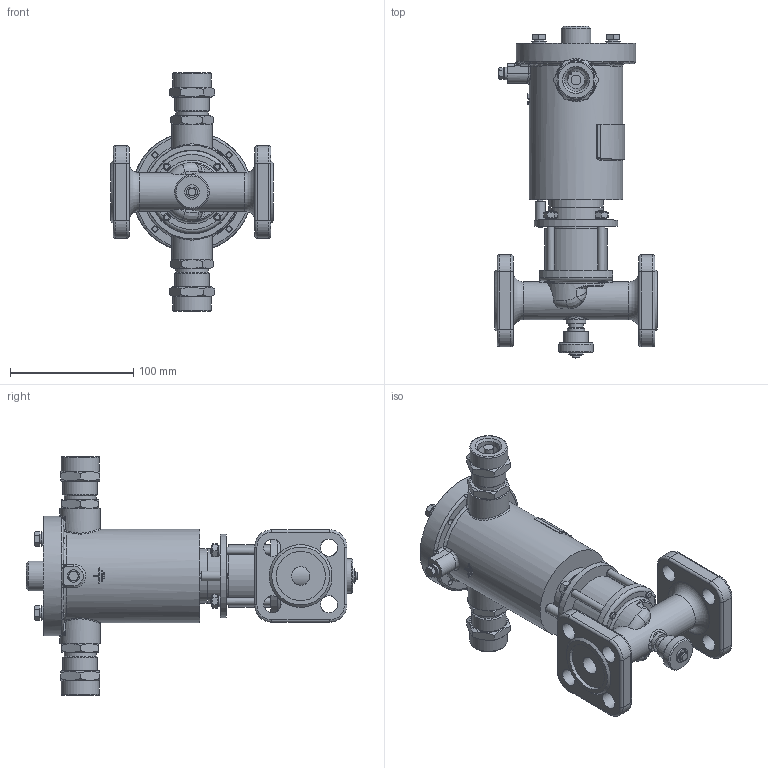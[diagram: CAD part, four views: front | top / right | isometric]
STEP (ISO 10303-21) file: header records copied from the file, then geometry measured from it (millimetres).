
FILE_DESCRIPTION(('STEP AP203'), '1');
FILE_NAME('ÑÅÍÑ-ÏÐ DN15PN25-ÑÂ.stp', '2018-10-09T07:55:51', ('Îðëîâ Å.Â.'), ('ÎÎÎ ÍÏÏ Ñåíñîð'), 'ASCON STEP Converter 1.3', 'Kompas 3D', '');
FILE_SCHEMA(('CONFIG_CONTROL_DESIGN','SUPPORT_RESOURCE_SCHEMA'));
Length unit declared in the file: millimetre
Products named in the file (1): 21
Bounding box: 132 x 269.5 x 194 mm (x, y, z)
Volume: 680382.4 mm3; surface area: 215689.4 mm2
Topology: 3 solids, 17 shells, 1989 faces, 5269 edges, 3421 vertices
Faces by surface type: cylinder 1022, plane 737, cone 134, torus 46, bspline 34, extrusion 16
Full cylindrical faces by diameter (mm): 2.459 x4, 4 x8, 4.134 x1, 4.5 x2, 4.917 x4, 5 x2, 6 x20, 6.1 x1, 6.3 x2, 6.4 x1, 6.5 x11, 8 x6, 9 x1, 10 x3, 11 x1, 11.5 x1, 12 x5, 12.376 x1, 13 x2, 14 x9, 15 x4, 16 x1, 16.5 x1, 18.5 x1, 18.632 x2, 20 x3, 22 x2, 22.376 x2, 23.5 x3, 24 x3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
Entity records: 76264 total; most frequent: CARTESIAN_POINT 25666, DIRECTION 11016, ORIENTED_EDGE 10466, EDGE_CURVE 5233, AXIS2_PLACEMENT_3D 4252, VERTEX_POINT 3411, VECTOR 2512, LINE 2496
